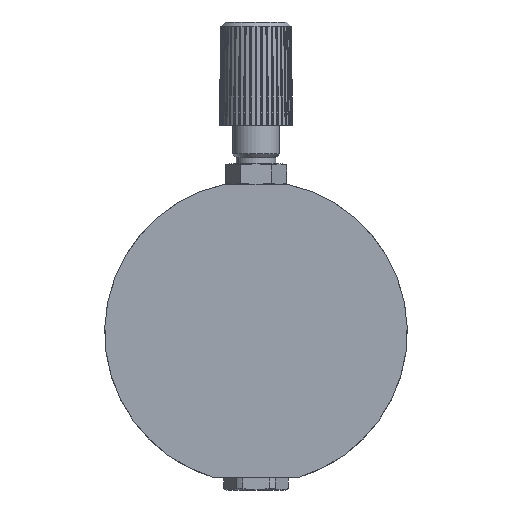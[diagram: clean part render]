
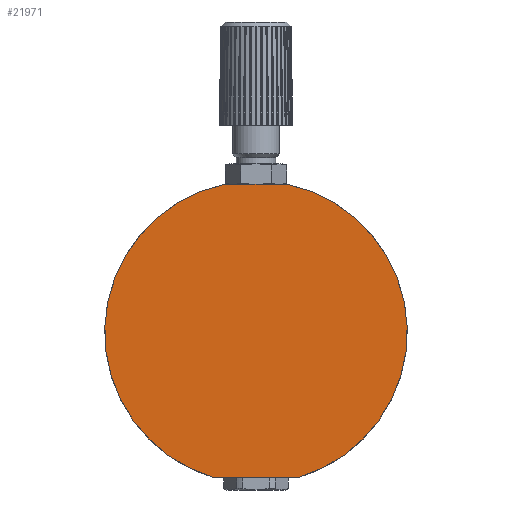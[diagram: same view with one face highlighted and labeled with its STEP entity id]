
A CAD part, front view. The second image highlights one B-rep face of the part: STEP entity #21971.
In plain terms, the highlighted planar face has unit normal (0, -1, 0).
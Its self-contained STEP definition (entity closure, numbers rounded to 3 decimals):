
#1141=LINE('',#32012,#3128);
#1242=LINE('',#32486,#3229);
#3128=VECTOR('',#26076,23.55);
#3229=VECTOR('',#26407,17.495);
#5111=PLANE('',#23447);
#6428=FACE_OUTER_BOUND('',#7697,.T.);
#7697=EDGE_LOOP('',(#16636,#16637,#16638,#16639));
#8803=CIRCLE('',#23330,40.75);
#8840=CIRCLE('',#23443,40.75);
#9751=VERTEX_POINT('',#32000);
#9753=VERTEX_POINT('',#32003);
#9756=VERTEX_POINT('',#32010);
#9886=VERTEX_POINT('',#32476);
#12178=EDGE_CURVE('',#9753,#9751,#8803,.T.);
#12182=EDGE_CURVE('',#9756,#9751,#1141,.T.);
#12359=EDGE_CURVE('',#9756,#9886,#8840,.T.);
#12363=EDGE_CURVE('',#9753,#9886,#1242,.T.);
#16636=ORIENTED_EDGE('',*,*,#12363,.F.);
#16637=ORIENTED_EDGE('',*,*,#12178,.T.);
#16638=ORIENTED_EDGE('',*,*,#12182,.F.);
#16639=ORIENTED_EDGE('',*,*,#12359,.T.);
#21971=ADVANCED_FACE('',(#6428),#5111,.T.);
#23330=AXIS2_PLACEMENT_3D('',#32004,#26068,#26069);
#23443=AXIS2_PLACEMENT_3D('',#32479,#26396,#26397);
#23447=AXIS2_PLACEMENT_3D('',#32485,#26405,#26406);
#26068=DIRECTION('center_axis',(0.,-1.,0.));
#26069=DIRECTION('ref_axis',(1.,0.,0.));
#26076=DIRECTION('',(-1.,0.,0.));
#26396=DIRECTION('center_axis',(0.,-1.,0.));
#26397=DIRECTION('ref_axis',(1.,0.,0.));
#26405=DIRECTION('center_axis',(0.,-1.,0.));
#26406=DIRECTION('ref_axis',(0.,0.,-1.));
#26407=DIRECTION('',(1.,0.,0.));
#32000=CARTESIAN_POINT('',(-11.775,0.,-39.012));
#32003=CARTESIAN_POINT('',(-8.748,0.,39.8));
#32004=CARTESIAN_POINT('Origin',(0.,0.,0.));
#32010=CARTESIAN_POINT('',(11.775,0.,-39.012));
#32012=CARTESIAN_POINT('',(30.563,0.,-39.012));
#32476=CARTESIAN_POINT('',(8.748,0.,39.8));
#32479=CARTESIAN_POINT('Origin',(0.,0.,0.));
#32485=CARTESIAN_POINT('Origin',(20.375,0.,0.));
#32486=CARTESIAN_POINT('',(-10.188,0.,39.8));
